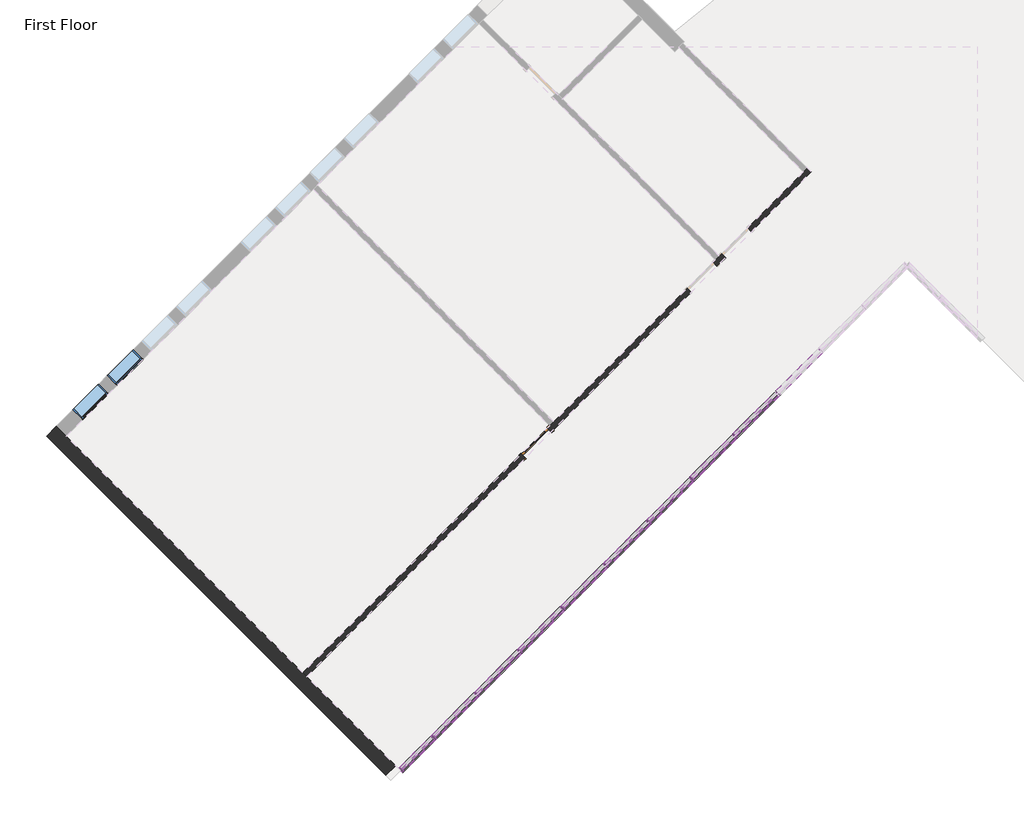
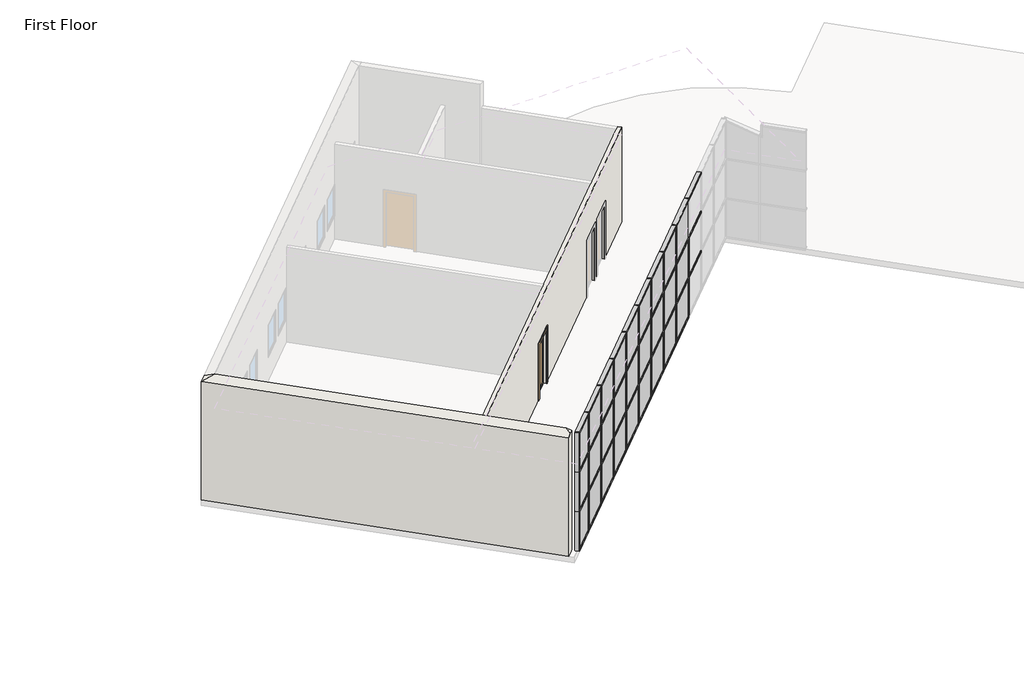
# One storey, part 1 of 4: 68 members, 27 plates, 2 walls, 2 windows, 1 door.
"""IFC4 building model written with IfcOpenShell, lengths in millimetres."""

from ifc_helpers import new_model, si_unit, origin, place, context, project, spatial, faceted_brep, transform, mapped, element, save
from components import m_single_glass_1_0915_x_2134mm_fb3287b7, rectangular_mullion_50_x_150mm_a88ac5a8, rectangular_mullion_50_x_150mm_40297ad3, rectangular_mullion_50_x_150mm_f494fff1, rectangular_mullion_50_x_150mm_2bb03180, rectangular_mullion_50_x_150mm_5da8f88f, rectangular_mullion_50_x_150mm_4d330a12, system_panel_glazed_a417ca2b, system_panel_glazed_7c4ff273, system_panel_glazed_1065fb32, system_panel_glazed_85fb0d8e, system_panel_solid_a570f427, system_panel_solid_3d16d364, m_fixed_0915_x_1220mm_bde29121

model = new_model("IFC4")

# Units and contexts
model_context = context("Model", 3, world=origin())
ifc_project = project(units=[si_unit("LENGTHUNIT", "METRE", prefix="MILLI")], contexts=[model_context])

# Site, building, storey
site = spatial("IfcSite", under=ifc_project)
building = spatial("IfcBuilding", under=site)
storey = spatial("IfcBuildingStorey", under=building, Name="First Floor", Elevation=0.0)

# Door
placement = place(None, origin())
m_single_glass_1_0915_x_2134mm_shape = m_single_glass_1_0915_x_2134mm_fb3287b7(model_context)
element("IfcDoor", 1, ObjectType="M_Single-Glass 1 : 0915 x 2134mm", at=placement, inside=storey, context=model_context, shape_type="MappedRepresentation", body=[
    mapped(m_single_glass_1_0915_x_2134mm_shape, transform((-10885.2041795, -2483.8084826, 0.0), x_axis=(0.7071067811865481, 0.7071067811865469, 0.0), y_axis=(-0.7071067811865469, 0.7071067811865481, 0.0), z_axis=(0.0, 0.0, 1.0))),
])

# Members
rectangular_mullion_50_x_150mm_shape = rectangular_mullion_50_x_150mm_a88ac5a8(model_context)
element("IfcMember", 2, ObjectType="Rectangular Mullion : 50 x 150mm", at=placement, inside=storey, context=model_context, shape_type="MappedRepresentation", body=[
    mapped(rectangular_mullion_50_x_150mm_shape, transform((-14249.9717978, -10654.0737858, 4572.0), x_axis=(0.0, 0.0, 1.0), y_axis=(-0.7071067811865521, 0.7071067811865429, 0.0), z_axis=(-0.7071067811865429, -0.7071067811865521, 0.0))),
])
rectangular_mullion_50_x_150mm_2_shape = rectangular_mullion_50_x_150mm_40297ad3(model_context)
element("IfcMember", 3, ObjectType="Rectangular Mullion : 50 x 150mm", at=placement, inside=storey, context=model_context, shape_type="MappedRepresentation", body=[
    mapped(rectangular_mullion_50_x_150mm_2_shape, transform((-4834.1378997, -1238.2398877, 0.0), x_axis=(-0.7071067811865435, -0.7071067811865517, 0.0), y_axis=(-0.7071067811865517, 0.7071067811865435, 0.0), z_axis=(0.0, 0.0, -1.0))),
])
element("IfcMember", 4, ObjectType="Rectangular Mullion : 50 x 150mm", at=placement, inside=storey, context=model_context, shape_type="MappedRepresentation", body=[
    mapped(rectangular_mullion_50_x_150mm_2_shape, transform((-5911.7686342, -2315.8706223, 0.0), x_axis=(-0.7071067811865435, -0.7071067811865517, 0.0), y_axis=(-0.7071067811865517, 0.7071067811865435, 0.0), z_axis=(0.0, 0.0, -1.0))),
])
element("IfcMember", 5, ObjectType="Rectangular Mullion : 50 x 150mm", at=placement, inside=storey, context=model_context, shape_type="MappedRepresentation", body=[
    mapped(rectangular_mullion_50_x_150mm_2_shape, transform((-6989.3993688, -3393.5013568, 0.0), x_axis=(-0.7071067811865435, -0.7071067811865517, 0.0), y_axis=(-0.7071067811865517, 0.7071067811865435, 0.0), z_axis=(0.0, 0.0, -1.0))),
])
element("IfcMember", 6, ObjectType="Rectangular Mullion : 50 x 150mm", at=placement, inside=storey, context=model_context, shape_type="MappedRepresentation", body=[
    mapped(rectangular_mullion_50_x_150mm_2_shape, transform((-8067.0301033, -4471.1320913, 0.0), x_axis=(-0.7071067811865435, -0.7071067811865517, 0.0), y_axis=(-0.7071067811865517, 0.7071067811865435, 0.0), z_axis=(0.0, 0.0, -1.0))),
])
element("IfcMember", 7, ObjectType="Rectangular Mullion : 50 x 150mm", at=placement, inside=storey, context=model_context, shape_type="MappedRepresentation", body=[
    mapped(rectangular_mullion_50_x_150mm_2_shape, transform((-9144.6608378, -5548.7628258, 0.0), x_axis=(-0.7071067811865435, -0.7071067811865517, 0.0), y_axis=(-0.7071067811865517, 0.7071067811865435, 0.0), z_axis=(0.0, 0.0, -1.0))),
])
element("IfcMember", 8, ObjectType="Rectangular Mullion : 50 x 150mm", at=placement, inside=storey, context=model_context, shape_type="MappedRepresentation", body=[
    mapped(rectangular_mullion_50_x_150mm_2_shape, transform((-10222.2915724, -6626.3935604, 0.0), x_axis=(-0.7071067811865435, -0.7071067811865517, 0.0), y_axis=(-0.7071067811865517, 0.7071067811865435, 0.0), z_axis=(0.0, 0.0, -1.0))),
])
element("IfcMember", 9, ObjectType="Rectangular Mullion : 50 x 150mm", at=placement, inside=storey, context=model_context, shape_type="MappedRepresentation", body=[
    mapped(rectangular_mullion_50_x_150mm_2_shape, transform((-11299.9223069, -7704.0242949, 0.0), x_axis=(-0.7071067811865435, -0.7071067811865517, 0.0), y_axis=(-0.7071067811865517, 0.7071067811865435, 0.0), z_axis=(0.0, 0.0, -1.0))),
])
element("IfcMember", 10, ObjectType="Rectangular Mullion : 50 x 150mm", at=placement, inside=storey, context=model_context, shape_type="MappedRepresentation", body=[
    mapped(rectangular_mullion_50_x_150mm_2_shape, transform((-12377.5530414, -8781.6550294, 0.0), x_axis=(-0.7071067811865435, -0.7071067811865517, 0.0), y_axis=(-0.7071067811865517, 0.7071067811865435, 0.0), z_axis=(0.0, 0.0, -1.0))),
])
element("IfcMember", 11, ObjectType="Rectangular Mullion : 50 x 150mm", at=placement, inside=storey, context=model_context, shape_type="MappedRepresentation", body=[
    mapped(rectangular_mullion_50_x_150mm_2_shape, transform((-13455.1837759, -9859.285764, 0.0), x_axis=(-0.7071067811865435, -0.7071067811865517, 0.0), y_axis=(-0.7071067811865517, 0.7071067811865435, 0.0), z_axis=(0.0, 0.0, -1.0))),
])
rectangular_mullion_50_x_150mm_3_shape = rectangular_mullion_50_x_150mm_f494fff1(model_context)
element("IfcMember", 12, ObjectType="Rectangular Mullion : 50 x 150mm", at=placement, inside=storey, context=model_context, shape_type="MappedRepresentation", body=[
    mapped(rectangular_mullion_50_x_150mm_3_shape, transform((-4816.4602302, -1220.5622182, 1524.0), x_axis=(0.0, 0.0, 1.0), y_axis=(-0.7071067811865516, 0.7071067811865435, 0.0), z_axis=(-0.7071067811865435, -0.7071067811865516, 0.0))),
])
element("IfcMember", 13, ObjectType="Rectangular Mullion : 50 x 150mm", at=placement, inside=storey, context=model_context, shape_type="MappedRepresentation", body=[
    mapped(rectangular_mullion_50_x_150mm_3_shape, transform((-5894.0909647, -2298.1929527, 1524.0), x_axis=(0.0, 0.0, 1.0), y_axis=(-0.7071067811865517, 0.7071067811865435, 0.0), z_axis=(-0.7071067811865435, -0.7071067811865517, 0.0))),
])
element("IfcMember", 14, ObjectType="Rectangular Mullion : 50 x 150mm", at=placement, inside=storey, context=model_context, shape_type="MappedRepresentation", body=[
    mapped(rectangular_mullion_50_x_150mm_3_shape, transform((-6971.7216992, -3375.8236873, 1524.0), x_axis=(0.0, 0.0, 1.0), y_axis=(-0.7071067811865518, 0.7071067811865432, 0.0), z_axis=(-0.7071067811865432, -0.7071067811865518, 0.0))),
])
element("IfcMember", 15, ObjectType="Rectangular Mullion : 50 x 150mm", at=placement, inside=storey, context=model_context, shape_type="MappedRepresentation", body=[
    mapped(rectangular_mullion_50_x_150mm_3_shape, transform((-8049.3524338, -4453.4544218, 1524.0), x_axis=(0.0, 0.0, 1.0), y_axis=(-0.7071067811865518, 0.7071067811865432, 0.0), z_axis=(-0.7071067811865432, -0.7071067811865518, 0.0))),
])
element("IfcMember", 16, ObjectType="Rectangular Mullion : 50 x 150mm", at=placement, inside=storey, context=model_context, shape_type="MappedRepresentation", body=[
    mapped(rectangular_mullion_50_x_150mm_3_shape, transform((-9126.9831683, -5531.0851563, 1524.0), x_axis=(0.0, 0.0, 1.0), y_axis=(-0.7071067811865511, 0.707106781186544, 0.0), z_axis=(-0.707106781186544, -0.7071067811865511, 0.0))),
])
element("IfcMember", 17, ObjectType="Rectangular Mullion : 50 x 150mm", at=placement, inside=storey, context=model_context, shape_type="MappedRepresentation", body=[
    mapped(rectangular_mullion_50_x_150mm_3_shape, transform((-10204.6139028, -6608.7158908, 1524.0), x_axis=(0.0, 0.0, 1.0), y_axis=(-0.7071067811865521, 0.7071067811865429, 0.0), z_axis=(-0.7071067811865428, -0.707106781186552, 0.0))),
])
element("IfcMember", 18, ObjectType="Rectangular Mullion : 50 x 150mm", at=placement, inside=storey, context=model_context, shape_type="MappedRepresentation", body=[
    mapped(rectangular_mullion_50_x_150mm_3_shape, transform((-11282.2446374, -7686.3466254, 1524.0), x_axis=(0.0, 0.0, 1.0), y_axis=(-0.7071067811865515, 0.7071067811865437, 0.0), z_axis=(-0.7071067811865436, -0.7071067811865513, 0.0))),
])
element("IfcMember", 19, ObjectType="Rectangular Mullion : 50 x 150mm", at=placement, inside=storey, context=model_context, shape_type="MappedRepresentation", body=[
    mapped(rectangular_mullion_50_x_150mm_3_shape, transform((-12359.8753719, -8763.9773599, 1524.0), x_axis=(0.0, 0.0, 1.0), y_axis=(-0.7071067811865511, 0.707106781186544, 0.0), z_axis=(-0.707106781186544, -0.7071067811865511, 0.0))),
])
element("IfcMember", 20, ObjectType="Rectangular Mullion : 50 x 150mm", at=placement, inside=storey, context=model_context, shape_type="MappedRepresentation", body=[
    mapped(rectangular_mullion_50_x_150mm_3_shape, transform((-13437.5061064, -9841.6080944, 1524.0), x_axis=(0.0, 0.0, 1.0), y_axis=(-0.7071067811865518, 0.7071067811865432, 0.0), z_axis=(-0.7071067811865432, -0.7071067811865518, 0.0))),
])
element("IfcMember", 21, ObjectType="Rectangular Mullion : 50 x 150mm", at=placement, inside=storey, context=model_context, shape_type="MappedRepresentation", body=[
    mapped(rectangular_mullion_50_x_150mm_3_shape, transform((-4816.4602302, -1220.5622182, 3048.0), x_axis=(0.0, 0.0, 1.0), y_axis=(-0.7071067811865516, 0.7071067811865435, 0.0), z_axis=(-0.7071067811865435, -0.7071067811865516, 0.0))),
])
element("IfcMember", 22, ObjectType="Rectangular Mullion : 50 x 150mm", at=placement, inside=storey, context=model_context, shape_type="MappedRepresentation", body=[
    mapped(rectangular_mullion_50_x_150mm_3_shape, transform((-5894.0909647, -2298.1929527, 3048.0), x_axis=(0.0, 0.0, 1.0), y_axis=(-0.7071067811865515, 0.7071067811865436, 0.0), z_axis=(-0.7071067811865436, -0.7071067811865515, 0.0))),
])
element("IfcMember", 23, ObjectType="Rectangular Mullion : 50 x 150mm", at=placement, inside=storey, context=model_context, shape_type="MappedRepresentation", body=[
    mapped(rectangular_mullion_50_x_150mm_3_shape, transform((-6971.7216992, -3375.8236873, 3048.0), x_axis=(0.0, 0.0, 1.0), y_axis=(-0.7071067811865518, 0.7071067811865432, 0.0), z_axis=(-0.7071067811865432, -0.7071067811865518, 0.0))),
])
element("IfcMember", 24, ObjectType="Rectangular Mullion : 50 x 150mm", at=placement, inside=storey, context=model_context, shape_type="MappedRepresentation", body=[
    mapped(rectangular_mullion_50_x_150mm_3_shape, transform((-8049.3524338, -4453.4544218, 3048.0), x_axis=(0.0, 0.0, 1.0), y_axis=(-0.7071067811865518, 0.7071067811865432, 0.0), z_axis=(-0.7071067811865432, -0.7071067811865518, 0.0))),
])
element("IfcMember", 25, ObjectType="Rectangular Mullion : 50 x 150mm", at=placement, inside=storey, context=model_context, shape_type="MappedRepresentation", body=[
    mapped(rectangular_mullion_50_x_150mm_3_shape, transform((-9126.9831683, -5531.0851563, 3048.0), x_axis=(0.0, 0.0, 1.0), y_axis=(-0.7071067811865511, 0.707106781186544, 0.0), z_axis=(-0.707106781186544, -0.7071067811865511, 0.0))),
])
element("IfcMember", 26, ObjectType="Rectangular Mullion : 50 x 150mm", at=placement, inside=storey, context=model_context, shape_type="MappedRepresentation", body=[
    mapped(rectangular_mullion_50_x_150mm_3_shape, transform((-10204.6139028, -6608.7158908, 3048.0), x_axis=(0.0, 0.0, 1.0), y_axis=(-0.7071067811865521, 0.7071067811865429, 0.0), z_axis=(-0.7071067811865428, -0.707106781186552, 0.0))),
])
element("IfcMember", 27, ObjectType="Rectangular Mullion : 50 x 150mm", at=placement, inside=storey, context=model_context, shape_type="MappedRepresentation", body=[
    mapped(rectangular_mullion_50_x_150mm_3_shape, transform((-11282.2446374, -7686.3466254, 3048.0), x_axis=(0.0, 0.0, 1.0), y_axis=(-0.7071067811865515, 0.7071067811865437, 0.0), z_axis=(-0.7071067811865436, -0.7071067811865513, 0.0))),
])
element("IfcMember", 28, ObjectType="Rectangular Mullion : 50 x 150mm", at=placement, inside=storey, context=model_context, shape_type="MappedRepresentation", body=[
    mapped(rectangular_mullion_50_x_150mm_3_shape, transform((-12359.8753719, -8763.9773599, 3048.0), x_axis=(0.0, 0.0, 1.0), y_axis=(-0.7071067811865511, 0.707106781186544, 0.0), z_axis=(-0.707106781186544, -0.7071067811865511, 0.0))),
])
element("IfcMember", 29, ObjectType="Rectangular Mullion : 50 x 150mm", at=placement, inside=storey, context=model_context, shape_type="MappedRepresentation", body=[
    mapped(rectangular_mullion_50_x_150mm_3_shape, transform((-13437.5061064, -9841.6080944, 3048.0), x_axis=(0.0, 0.0, 1.0), y_axis=(-0.7071067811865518, 0.7071067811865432, 0.0), z_axis=(-0.7071067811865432, -0.7071067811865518, 0.0))),
])
rectangular_mullion_50_x_150mm_4_shape = rectangular_mullion_50_x_150mm_2bb03180(model_context)
element("IfcMember", 30, ObjectType="Rectangular Mullion : 50 x 150mm", at=placement, inside=storey, context=model_context, shape_type="MappedRepresentation", body=[
    mapped(rectangular_mullion_50_x_150mm_4_shape, transform((-14249.9717978, -10654.0737858, 1524.0), x_axis=(0.0, 0.0, 1.0), y_axis=(-0.7071067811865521, 0.7071067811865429, 0.0), z_axis=(-0.7071067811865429, -0.7071067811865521, 0.0))),
])
element("IfcMember", 31, ObjectType="Rectangular Mullion : 50 x 150mm", at=placement, inside=storey, context=model_context, shape_type="MappedRepresentation", body=[
    mapped(rectangular_mullion_50_x_150mm_4_shape, transform((-14249.9717978, -10654.0737858, 3048.0), x_axis=(0.0, 0.0, 1.0), y_axis=(-0.7071067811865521, 0.7071067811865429, 0.0), z_axis=(-0.7071067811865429, -0.7071067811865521, 0.0))),
])
rectangular_mullion_50_x_150mm_5_shape = rectangular_mullion_50_x_150mm_5da8f88f(model_context)
element("IfcMember", 32, ObjectType="Rectangular Mullion : 50 x 150mm", at=placement, inside=storey, context=model_context, shape_type="MappedRepresentation", body=[
    mapped(rectangular_mullion_50_x_150mm_5_shape, transform((-4851.8155692, -1255.9175573, 0.0), x_axis=(0.0, 0.0, -1.0), y_axis=(-0.7071067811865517, 0.7071067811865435, 0.0), z_axis=(0.7071067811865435, 0.7071067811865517, 0.0))),
])
element("IfcMember", 33, ObjectType="Rectangular Mullion : 50 x 150mm", at=placement, inside=storey, context=model_context, shape_type="MappedRepresentation", body=[
    mapped(rectangular_mullion_50_x_150mm_5_shape, transform((-5929.4463038, -2333.5482918, 0.0), x_axis=(0.0, 0.0, -1.0), y_axis=(-0.7071067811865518, 0.7071067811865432, 0.0), z_axis=(0.7071067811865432, 0.7071067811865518, 0.0))),
])
element("IfcMember", 34, ObjectType="Rectangular Mullion : 50 x 150mm", at=placement, inside=storey, context=model_context, shape_type="MappedRepresentation", body=[
    mapped(rectangular_mullion_50_x_150mm_5_shape, transform((-7007.0770383, -3411.1790263, 0.0), x_axis=(0.0, 0.0, -1.0), y_axis=(-0.7071067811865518, 0.7071067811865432, 0.0), z_axis=(0.7071067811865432, 0.7071067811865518, 0.0))),
])
element("IfcMember", 35, ObjectType="Rectangular Mullion : 50 x 150mm", at=placement, inside=storey, context=model_context, shape_type="MappedRepresentation", body=[
    mapped(rectangular_mullion_50_x_150mm_5_shape, transform((-8084.7077728, -4488.8097608, 0.0), x_axis=(0.0, 0.0, -1.0), y_axis=(-0.7071067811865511, 0.707106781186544, 0.0), z_axis=(0.707106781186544, 0.7071067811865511, 0.0))),
])
element("IfcMember", 36, ObjectType="Rectangular Mullion : 50 x 150mm", at=placement, inside=storey, context=model_context, shape_type="MappedRepresentation", body=[
    mapped(rectangular_mullion_50_x_150mm_5_shape, transform((-9162.3385074, -5566.4404954, 0.0), x_axis=(0.0, 0.0, -1.0), y_axis=(-0.7071067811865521, 0.7071067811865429, 0.0), z_axis=(0.7071067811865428, 0.707106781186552, 0.0))),
])
element("IfcMember", 37, ObjectType="Rectangular Mullion : 50 x 150mm", at=placement, inside=storey, context=model_context, shape_type="MappedRepresentation", body=[
    mapped(rectangular_mullion_50_x_150mm_5_shape, transform((-10239.9692419, -6644.0712299, 0.0), x_axis=(0.0, 0.0, -1.0), y_axis=(-0.7071067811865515, 0.7071067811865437, 0.0), z_axis=(0.7071067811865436, 0.7071067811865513, 0.0))),
])
element("IfcMember", 38, ObjectType="Rectangular Mullion : 50 x 150mm", at=placement, inside=storey, context=model_context, shape_type="MappedRepresentation", body=[
    mapped(rectangular_mullion_50_x_150mm_5_shape, transform((-11317.5999764, -7721.7019644, 0.0), x_axis=(0.0, 0.0, -1.0), y_axis=(-0.7071067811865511, 0.707106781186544, 0.0), z_axis=(0.707106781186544, 0.7071067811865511, 0.0))),
])
element("IfcMember", 39, ObjectType="Rectangular Mullion : 50 x 150mm", at=placement, inside=storey, context=model_context, shape_type="MappedRepresentation", body=[
    mapped(rectangular_mullion_50_x_150mm_5_shape, transform((-12395.2307109, -8799.332699, 0.0), x_axis=(0.0, 0.0, -1.0), y_axis=(-0.7071067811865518, 0.7071067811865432, 0.0), z_axis=(0.7071067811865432, 0.7071067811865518, 0.0))),
])
element("IfcMember", 40, ObjectType="Rectangular Mullion : 50 x 150mm", at=placement, inside=storey, context=model_context, shape_type="MappedRepresentation", body=[
    mapped(rectangular_mullion_50_x_150mm_shape, transform((-13472.8614455, -9876.9634335, 0.0), x_axis=(0.0, 0.0, -1.0), y_axis=(-0.7071067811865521, 0.7071067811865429, 0.0), z_axis=(0.7071067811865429, 0.7071067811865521, 0.0))),
])
element("IfcMember", 41, ObjectType="Rectangular Mullion : 50 x 150mm", at=placement, inside=storey, context=model_context, shape_type="MappedRepresentation", body=[
    mapped(rectangular_mullion_50_x_150mm_5_shape, transform((-4816.4602302, -1220.5622182, 4572.0), x_axis=(0.0, 0.0, 1.0), y_axis=(-0.7071067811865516, 0.7071067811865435, 0.0), z_axis=(-0.7071067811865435, -0.7071067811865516, 0.0))),
])
element("IfcMember", 42, ObjectType="Rectangular Mullion : 50 x 150mm", at=placement, inside=storey, context=model_context, shape_type="MappedRepresentation", body=[
    mapped(rectangular_mullion_50_x_150mm_5_shape, transform((-5894.0909647, -2298.1929527, 4572.0), x_axis=(0.0, 0.0, 1.0), y_axis=(-0.7071067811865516, 0.7071067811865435, 0.0), z_axis=(-0.7071067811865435, -0.7071067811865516, 0.0))),
])
element("IfcMember", 43, ObjectType="Rectangular Mullion : 50 x 150mm", at=placement, inside=storey, context=model_context, shape_type="MappedRepresentation", body=[
    mapped(rectangular_mullion_50_x_150mm_5_shape, transform((-6971.7216992, -3375.8236873, 4572.0), x_axis=(0.0, 0.0, 1.0), y_axis=(-0.7071067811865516, 0.7071067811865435, 0.0), z_axis=(-0.7071067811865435, -0.7071067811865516, 0.0))),
])
element("IfcMember", 44, ObjectType="Rectangular Mullion : 50 x 150mm", at=placement, inside=storey, context=model_context, shape_type="MappedRepresentation", body=[
    mapped(rectangular_mullion_50_x_150mm_5_shape, transform((-8049.3524338, -4453.4544218, 4572.0), x_axis=(0.0, 0.0, 1.0), y_axis=(-0.7071067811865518, 0.7071067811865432, 0.0), z_axis=(-0.7071067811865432, -0.7071067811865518, 0.0))),
])
element("IfcMember", 45, ObjectType="Rectangular Mullion : 50 x 150mm", at=placement, inside=storey, context=model_context, shape_type="MappedRepresentation", body=[
    mapped(rectangular_mullion_50_x_150mm_5_shape, transform((-9126.9831683, -5531.0851563, 4572.0), x_axis=(0.0, 0.0, 1.0), y_axis=(-0.7071067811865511, 0.707106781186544, 0.0), z_axis=(-0.707106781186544, -0.7071067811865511, 0.0))),
])
element("IfcMember", 46, ObjectType="Rectangular Mullion : 50 x 150mm", at=placement, inside=storey, context=model_context, shape_type="MappedRepresentation", body=[
    mapped(rectangular_mullion_50_x_150mm_5_shape, transform((-10204.6139028, -6608.7158908, 4572.0), x_axis=(0.0, 0.0, 1.0), y_axis=(-0.7071067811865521, 0.7071067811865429, 0.0), z_axis=(-0.7071067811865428, -0.707106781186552, 0.0))),
])
element("IfcMember", 47, ObjectType="Rectangular Mullion : 50 x 150mm", at=placement, inside=storey, context=model_context, shape_type="MappedRepresentation", body=[
    mapped(rectangular_mullion_50_x_150mm_5_shape, transform((-11282.2446374, -7686.3466254, 4572.0), x_axis=(0.0, 0.0, 1.0), y_axis=(-0.7071067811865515, 0.7071067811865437, 0.0), z_axis=(-0.7071067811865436, -0.7071067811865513, 0.0))),
])
element("IfcMember", 48, ObjectType="Rectangular Mullion : 50 x 150mm", at=placement, inside=storey, context=model_context, shape_type="MappedRepresentation", body=[
    mapped(rectangular_mullion_50_x_150mm_5_shape, transform((-12359.8753719, -8763.9773599, 4572.0), x_axis=(0.0, 0.0, 1.0), y_axis=(-0.7071067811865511, 0.707106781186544, 0.0), z_axis=(-0.707106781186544, -0.7071067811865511, 0.0))),
])
element("IfcMember", 49, ObjectType="Rectangular Mullion : 50 x 150mm", at=placement, inside=storey, context=model_context, shape_type="MappedRepresentation", body=[
    mapped(rectangular_mullion_50_x_150mm_5_shape, transform((-13437.5061064, -9841.6080944, 4572.0), x_axis=(0.0, 0.0, 1.0), y_axis=(-0.7071067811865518, 0.7071067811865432, 0.0), z_axis=(-0.7071067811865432, -0.7071067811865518, 0.0))),
])
element("IfcMember", 50, ObjectType="Rectangular Mullion : 50 x 150mm", at=placement, inside=storey, context=model_context, shape_type="MappedRepresentation", body=[
    mapped(rectangular_mullion_50_x_150mm_2_shape, transform((-4834.1378997, -1238.2398877, 1524.0), x_axis=(-0.7071067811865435, -0.7071067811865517, 0.0), y_axis=(-0.7071067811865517, 0.7071067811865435, 0.0), z_axis=(0.0, 0.0, -1.0))),
])
element("IfcMember", 51, ObjectType="Rectangular Mullion : 50 x 150mm", at=placement, inside=storey, context=model_context, shape_type="MappedRepresentation", body=[
    mapped(rectangular_mullion_50_x_150mm_2_shape, transform((-5911.7686342, -2315.8706223, 1524.0), x_axis=(-0.7071067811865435, -0.7071067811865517, 0.0), y_axis=(-0.7071067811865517, 0.7071067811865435, 0.0), z_axis=(0.0, 0.0, -1.0))),
])
element("IfcMember", 52, ObjectType="Rectangular Mullion : 50 x 150mm", at=placement, inside=storey, context=model_context, shape_type="MappedRepresentation", body=[
    mapped(rectangular_mullion_50_x_150mm_2_shape, transform((-6989.3993688, -3393.5013568, 1524.0), x_axis=(-0.7071067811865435, -0.7071067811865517, 0.0), y_axis=(-0.7071067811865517, 0.7071067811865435, 0.0), z_axis=(0.0, 0.0, -1.0))),
])
element("IfcMember", 53, ObjectType="Rectangular Mullion : 50 x 150mm", at=placement, inside=storey, context=model_context, shape_type="MappedRepresentation", body=[
    mapped(rectangular_mullion_50_x_150mm_2_shape, transform((-8067.0301033, -4471.1320913, 1524.0), x_axis=(-0.7071067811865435, -0.7071067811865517, 0.0), y_axis=(-0.7071067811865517, 0.7071067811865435, 0.0), z_axis=(0.0, 0.0, -1.0))),
])
element("IfcMember", 54, ObjectType="Rectangular Mullion : 50 x 150mm", at=placement, inside=storey, context=model_context, shape_type="MappedRepresentation", body=[
    mapped(rectangular_mullion_50_x_150mm_2_shape, transform((-9144.6608378, -5548.7628258, 1524.0), x_axis=(-0.7071067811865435, -0.7071067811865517, 0.0), y_axis=(-0.7071067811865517, 0.7071067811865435, 0.0), z_axis=(0.0, 0.0, -1.0))),
])
element("IfcMember", 55, ObjectType="Rectangular Mullion : 50 x 150mm", at=placement, inside=storey, context=model_context, shape_type="MappedRepresentation", body=[
    mapped(rectangular_mullion_50_x_150mm_2_shape, transform((-10222.2915724, -6626.3935604, 1524.0), x_axis=(-0.7071067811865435, -0.7071067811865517, 0.0), y_axis=(-0.7071067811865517, 0.7071067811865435, 0.0), z_axis=(0.0, 0.0, -1.0))),
])
element("IfcMember", 56, ObjectType="Rectangular Mullion : 50 x 150mm", at=placement, inside=storey, context=model_context, shape_type="MappedRepresentation", body=[
    mapped(rectangular_mullion_50_x_150mm_2_shape, transform((-11299.9223069, -7704.0242949, 1524.0), x_axis=(-0.7071067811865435, -0.7071067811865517, 0.0), y_axis=(-0.7071067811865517, 0.7071067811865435, 0.0), z_axis=(0.0, 0.0, -1.0))),
])
element("IfcMember", 57, ObjectType="Rectangular Mullion : 50 x 150mm", at=placement, inside=storey, context=model_context, shape_type="MappedRepresentation", body=[
    mapped(rectangular_mullion_50_x_150mm_2_shape, transform((-12377.5530414, -8781.6550294, 1524.0), x_axis=(-0.7071067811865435, -0.7071067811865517, 0.0), y_axis=(-0.7071067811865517, 0.7071067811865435, 0.0), z_axis=(0.0, 0.0, -1.0))),
])
element("IfcMember", 58, ObjectType="Rectangular Mullion : 50 x 150mm", at=placement, inside=storey, context=model_context, shape_type="MappedRepresentation", body=[
    mapped(rectangular_mullion_50_x_150mm_2_shape, transform((-13455.1837759, -9859.285764, 1524.0), x_axis=(-0.7071067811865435, -0.7071067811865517, 0.0), y_axis=(-0.7071067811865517, 0.7071067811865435, 0.0), z_axis=(0.0, 0.0, -1.0))),
])
element("IfcMember", 59, ObjectType="Rectangular Mullion : 50 x 150mm", at=placement, inside=storey, context=model_context, shape_type="MappedRepresentation", body=[
    mapped(rectangular_mullion_50_x_150mm_2_shape, transform((-5911.7686342, -2315.8706223, 3048.0), x_axis=(-0.7071067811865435, -0.7071067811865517, 0.0), y_axis=(-0.7071067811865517, 0.7071067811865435, 0.0), z_axis=(0.0, 0.0, -1.0))),
])
element("IfcMember", 60, ObjectType="Rectangular Mullion : 50 x 150mm", at=placement, inside=storey, context=model_context, shape_type="MappedRepresentation", body=[
    mapped(rectangular_mullion_50_x_150mm_2_shape, transform((-6989.3993688, -3393.5013568, 3048.0), x_axis=(-0.7071067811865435, -0.7071067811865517, 0.0), y_axis=(-0.7071067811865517, 0.7071067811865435, 0.0), z_axis=(0.0, 0.0, -1.0))),
])
element("IfcMember", 61, ObjectType="Rectangular Mullion : 50 x 150mm", at=placement, inside=storey, context=model_context, shape_type="MappedRepresentation", body=[
    mapped(rectangular_mullion_50_x_150mm_2_shape, transform((-8067.0301033, -4471.1320913, 3048.0), x_axis=(-0.7071067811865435, -0.7071067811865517, 0.0), y_axis=(-0.7071067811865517, 0.7071067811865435, 0.0), z_axis=(0.0, 0.0, -1.0))),
])
element("IfcMember", 62, ObjectType="Rectangular Mullion : 50 x 150mm", at=placement, inside=storey, context=model_context, shape_type="MappedRepresentation", body=[
    mapped(rectangular_mullion_50_x_150mm_2_shape, transform((-9144.6608378, -5548.7628258, 3048.0), x_axis=(-0.7071067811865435, -0.7071067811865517, 0.0), y_axis=(-0.7071067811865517, 0.7071067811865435, 0.0), z_axis=(0.0, 0.0, -1.0))),
])
element("IfcMember", 63, ObjectType="Rectangular Mullion : 50 x 150mm", at=placement, inside=storey, context=model_context, shape_type="MappedRepresentation", body=[
    mapped(rectangular_mullion_50_x_150mm_2_shape, transform((-10222.2915724, -6626.3935604, 3048.0), x_axis=(-0.7071067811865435, -0.7071067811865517, 0.0), y_axis=(-0.7071067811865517, 0.7071067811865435, 0.0), z_axis=(0.0, 0.0, -1.0))),
])
element("IfcMember", 64, ObjectType="Rectangular Mullion : 50 x 150mm", at=placement, inside=storey, context=model_context, shape_type="MappedRepresentation", body=[
    mapped(rectangular_mullion_50_x_150mm_2_shape, transform((-11299.9223069, -7704.0242949, 3048.0), x_axis=(-0.7071067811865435, -0.7071067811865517, 0.0), y_axis=(-0.7071067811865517, 0.7071067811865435, 0.0), z_axis=(0.0, 0.0, -1.0))),
])
element("IfcMember", 65, ObjectType="Rectangular Mullion : 50 x 150mm", at=placement, inside=storey, context=model_context, shape_type="MappedRepresentation", body=[
    mapped(rectangular_mullion_50_x_150mm_2_shape, transform((-12377.5530414, -8781.6550294, 3048.0), x_axis=(-0.7071067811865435, -0.7071067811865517, 0.0), y_axis=(-0.7071067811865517, 0.7071067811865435, 0.0), z_axis=(0.0, 0.0, -1.0))),
])
element("IfcMember", 66, ObjectType="Rectangular Mullion : 50 x 150mm", at=placement, inside=storey, context=model_context, shape_type="MappedRepresentation", body=[
    mapped(rectangular_mullion_50_x_150mm_2_shape, transform((-13455.1837759, -9859.285764, 3048.0), x_axis=(-0.7071067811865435, -0.7071067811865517, 0.0), y_axis=(-0.7071067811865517, 0.7071067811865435, 0.0), z_axis=(0.0, 0.0, -1.0))),
])
rectangular_mullion_50_x_150mm_6_shape = rectangular_mullion_50_x_150mm_4d330a12(model_context)
element("IfcMember", 67, ObjectType="Rectangular Mullion : 50 x 150mm", at=placement, inside=storey, context=model_context, shape_type="MappedRepresentation", body=[
    mapped(rectangular_mullion_50_x_150mm_6_shape, transform((-14285.3271368, -10689.4291248, 0.0), x_axis=(-0.7071067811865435, -0.7071067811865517, 0.0), y_axis=(-0.7071067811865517, 0.7071067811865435, 0.0), z_axis=(0.0, 0.0, -1.0))),
])
element("IfcMember", 68, ObjectType="Rectangular Mullion : 50 x 150mm", at=placement, inside=storey, context=model_context, shape_type="MappedRepresentation", body=[
    mapped(rectangular_mullion_50_x_150mm_6_shape, transform((-14285.3271368, -10689.4291248, 1524.0), x_axis=(-0.7071067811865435, -0.7071067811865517, 0.0), y_axis=(-0.7071067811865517, 0.7071067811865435, 0.0), z_axis=(0.0, 0.0, -1.0))),
])
element("IfcMember", 69, ObjectType="Rectangular Mullion : 50 x 150mm", at=placement, inside=storey, context=model_context, shape_type="MappedRepresentation", body=[
    mapped(rectangular_mullion_50_x_150mm_6_shape, transform((-14285.3271368, -10689.4291248, 3048.0), x_axis=(-0.7071067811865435, -0.7071067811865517, 0.0), y_axis=(-0.7071067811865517, 0.7071067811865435, 0.0), z_axis=(0.0, 0.0, -1.0))),
])

# Plates
system_panel_glazed_shape = system_panel_glazed_a417ca2b(model_context)
element("IfcPlate", 70, ObjectType="System Panel : Glazed", at=placement, inside=storey, context=model_context, shape_type="MappedRepresentation", body=[
    mapped(system_panel_glazed_shape, transform((-5372.953267, -1777.055255, 50.0), x_axis=(-0.7071067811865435, -0.7071067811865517, 0.0), y_axis=(0.7071067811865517, -0.7071067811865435, 0.0), z_axis=(0.0, 0.0, 1.0))),
])
element("IfcPlate", 71, ObjectType="System Panel : Glazed", at=placement, inside=storey, context=model_context, shape_type="MappedRepresentation", body=[
    mapped(system_panel_glazed_shape, transform((-6450.5840015, -2854.6859895, 50.0), x_axis=(-0.7071067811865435, -0.7071067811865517, 0.0), y_axis=(0.7071067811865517, -0.7071067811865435, 0.0), z_axis=(0.0, 0.0, 1.0))),
])
element("IfcPlate", 72, ObjectType="System Panel : Glazed", at=placement, inside=storey, context=model_context, shape_type="MappedRepresentation", body=[
    mapped(system_panel_glazed_shape, transform((-7528.214736, -3932.316724, 50.0), x_axis=(-0.7071067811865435, -0.7071067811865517, 0.0), y_axis=(0.7071067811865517, -0.7071067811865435, 0.0), z_axis=(0.0, 0.0, 1.0))),
])
element("IfcPlate", 73, ObjectType="System Panel : Glazed", at=placement, inside=storey, context=model_context, shape_type="MappedRepresentation", body=[
    mapped(system_panel_glazed_shape, transform((-8605.8454706, -5009.9474586, 50.0), x_axis=(-0.7071067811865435, -0.7071067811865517, 0.0), y_axis=(0.7071067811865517, -0.7071067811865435, 0.0), z_axis=(0.0, 0.0, 1.0))),
])
element("IfcPlate", 74, ObjectType="System Panel : Glazed", at=placement, inside=storey, context=model_context, shape_type="MappedRepresentation", body=[
    mapped(system_panel_glazed_shape, transform((-9683.4762051, -6087.5781931, 50.0), x_axis=(-0.7071067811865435, -0.7071067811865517, 0.0), y_axis=(0.7071067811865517, -0.7071067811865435, 0.0), z_axis=(0.0, 0.0, 1.0))),
])
element("IfcPlate", 75, ObjectType="System Panel : Glazed", at=placement, inside=storey, context=model_context, shape_type="MappedRepresentation", body=[
    mapped(system_panel_glazed_shape, transform((-10761.1069396, -7165.2089276, 50.0), x_axis=(-0.7071067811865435, -0.7071067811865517, 0.0), y_axis=(0.7071067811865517, -0.7071067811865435, 0.0), z_axis=(0.0, 0.0, 1.0))),
])
element("IfcPlate", 76, ObjectType="System Panel : Glazed", at=placement, inside=storey, context=model_context, shape_type="MappedRepresentation", body=[
    mapped(system_panel_glazed_shape, transform((-11838.7376741, -8242.8396622, 50.0), x_axis=(-0.7071067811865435, -0.7071067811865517, 0.0), y_axis=(0.7071067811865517, -0.7071067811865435, 0.0), z_axis=(0.0, 0.0, 1.0))),
])
element("IfcPlate", 77, ObjectType="System Panel : Glazed", at=placement, inside=storey, context=model_context, shape_type="MappedRepresentation", body=[
    mapped(system_panel_glazed_shape, transform((-12916.3684087, -9320.4703967, 50.0), x_axis=(-0.7071067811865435, -0.7071067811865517, 0.0), y_axis=(0.7071067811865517, -0.7071067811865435, 0.0), z_axis=(0.0, 0.0, 1.0))),
])
system_panel_glazed_2_shape = system_panel_glazed_7c4ff273(model_context)
element("IfcPlate", 78, ObjectType="System Panel : Glazed", at=placement, inside=storey, context=model_context, shape_type="MappedRepresentation", body=[
    mapped(system_panel_glazed_2_shape, transform((-5372.953267, -1777.055255, 1549.0), x_axis=(-0.7071067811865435, -0.7071067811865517, 0.0), y_axis=(0.7071067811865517, -0.7071067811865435, 0.0), z_axis=(0.0, 0.0, 1.0))),
])
element("IfcPlate", 79, ObjectType="System Panel : Glazed", at=placement, inside=storey, context=model_context, shape_type="MappedRepresentation", body=[
    mapped(system_panel_glazed_2_shape, transform((-6450.5840015, -2854.6859895, 1549.0), x_axis=(-0.7071067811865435, -0.7071067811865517, 0.0), y_axis=(0.7071067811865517, -0.7071067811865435, 0.0), z_axis=(0.0, 0.0, 1.0))),
])
element("IfcPlate", 80, ObjectType="System Panel : Glazed", at=placement, inside=storey, context=model_context, shape_type="MappedRepresentation", body=[
    mapped(system_panel_glazed_2_shape, transform((-7528.214736, -3932.316724, 1549.0), x_axis=(-0.7071067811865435, -0.7071067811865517, 0.0), y_axis=(0.7071067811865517, -0.7071067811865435, 0.0), z_axis=(0.0, 0.0, 1.0))),
])
element("IfcPlate", 81, ObjectType="System Panel : Glazed", at=placement, inside=storey, context=model_context, shape_type="MappedRepresentation", body=[
    mapped(system_panel_glazed_2_shape, transform((-8605.8454706, -5009.9474586, 1549.0), x_axis=(-0.7071067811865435, -0.7071067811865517, 0.0), y_axis=(0.7071067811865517, -0.7071067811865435, 0.0), z_axis=(0.0, 0.0, 1.0))),
])
element("IfcPlate", 82, ObjectType="System Panel : Glazed", at=placement, inside=storey, context=model_context, shape_type="MappedRepresentation", body=[
    mapped(system_panel_glazed_2_shape, transform((-9683.4762051, -6087.5781931, 1549.0), x_axis=(-0.7071067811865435, -0.7071067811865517, 0.0), y_axis=(0.7071067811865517, -0.7071067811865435, 0.0), z_axis=(0.0, 0.0, 1.0))),
])
element("IfcPlate", 83, ObjectType="System Panel : Glazed", at=placement, inside=storey, context=model_context, shape_type="MappedRepresentation", body=[
    mapped(system_panel_glazed_2_shape, transform((-10761.1069396, -7165.2089276, 1549.0), x_axis=(-0.7071067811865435, -0.7071067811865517, 0.0), y_axis=(0.7071067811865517, -0.7071067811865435, 0.0), z_axis=(0.0, 0.0, 1.0))),
])
element("IfcPlate", 84, ObjectType="System Panel : Glazed", at=placement, inside=storey, context=model_context, shape_type="MappedRepresentation", body=[
    mapped(system_panel_glazed_2_shape, transform((-11838.7376741, -8242.8396622, 1549.0), x_axis=(-0.7071067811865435, -0.7071067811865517, 0.0), y_axis=(0.7071067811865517, -0.7071067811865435, 0.0), z_axis=(0.0, 0.0, 1.0))),
])
element("IfcPlate", 85, ObjectType="System Panel : Glazed", at=placement, inside=storey, context=model_context, shape_type="MappedRepresentation", body=[
    mapped(system_panel_glazed_2_shape, transform((-12916.3684087, -9320.4703967, 1549.0), x_axis=(-0.7071067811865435, -0.7071067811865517, 0.0), y_axis=(0.7071067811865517, -0.7071067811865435, 0.0), z_axis=(0.0, 0.0, 1.0))),
])
system_panel_glazed_3_shape = system_panel_glazed_1065fb32(model_context)
element("IfcPlate", 86, ObjectType="System Panel : Glazed", at=placement, inside=storey, context=model_context, shape_type="MappedRepresentation", body=[
    mapped(system_panel_glazed_3_shape, transform((-13861.4166216, -10265.5186096, 50.0), x_axis=(-0.7071067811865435, -0.7071067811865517, 0.0), y_axis=(0.7071067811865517, -0.7071067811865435, 0.0), z_axis=(0.0, 0.0, 1.0))),
])
system_panel_glazed_4_shape = system_panel_glazed_85fb0d8e(model_context)
element("IfcPlate", 87, ObjectType="System Panel : Glazed", at=placement, inside=storey, context=model_context, shape_type="MappedRepresentation", body=[
    mapped(system_panel_glazed_4_shape, transform((-13861.4166216, -10265.5186096, 1549.0), x_axis=(-0.7071067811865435, -0.7071067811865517, 0.0), y_axis=(0.7071067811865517, -0.7071067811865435, 0.0), z_axis=(0.0, 0.0, 1.0))),
])
system_panel_solid_shape = system_panel_solid_a570f427(model_context)
element("IfcPlate", 88, ObjectType="System Panel : Solid", at=placement, inside=storey, context=model_context, shape_type="MappedRepresentation", body=[
    mapped(system_panel_solid_shape, transform((-5372.953267, -1777.055255, 3073.0), x_axis=(-0.7071067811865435, -0.7071067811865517, 0.0), y_axis=(0.7071067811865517, -0.7071067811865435, 0.0), z_axis=(0.0, 0.0, 1.0))),
])
element("IfcPlate", 89, ObjectType="System Panel : Solid", at=placement, inside=storey, context=model_context, shape_type="MappedRepresentation", body=[
    mapped(system_panel_solid_shape, transform((-6450.5840015, -2854.6859895, 3073.0), x_axis=(-0.7071067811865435, -0.7071067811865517, 0.0), y_axis=(0.7071067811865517, -0.7071067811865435, 0.0), z_axis=(0.0, 0.0, 1.0))),
])
element("IfcPlate", 90, ObjectType="System Panel : Solid", at=placement, inside=storey, context=model_context, shape_type="MappedRepresentation", body=[
    mapped(system_panel_solid_shape, transform((-7528.214736, -3932.316724, 3073.0), x_axis=(-0.7071067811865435, -0.7071067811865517, 0.0), y_axis=(0.7071067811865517, -0.7071067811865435, 0.0), z_axis=(0.0, 0.0, 1.0))),
])
element("IfcPlate", 91, ObjectType="System Panel : Solid", at=placement, inside=storey, context=model_context, shape_type="MappedRepresentation", body=[
    mapped(system_panel_solid_shape, transform((-8605.8454706, -5009.9474586, 3073.0), x_axis=(-0.7071067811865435, -0.7071067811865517, 0.0), y_axis=(0.7071067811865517, -0.7071067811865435, 0.0), z_axis=(0.0, 0.0, 1.0))),
])
element("IfcPlate", 92, ObjectType="System Panel : Solid", at=placement, inside=storey, context=model_context, shape_type="MappedRepresentation", body=[
    mapped(system_panel_solid_shape, transform((-9683.4762051, -6087.5781931, 3073.0), x_axis=(-0.7071067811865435, -0.7071067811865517, 0.0), y_axis=(0.7071067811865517, -0.7071067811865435, 0.0), z_axis=(0.0, 0.0, 1.0))),
])
element("IfcPlate", 93, ObjectType="System Panel : Solid", at=placement, inside=storey, context=model_context, shape_type="MappedRepresentation", body=[
    mapped(system_panel_solid_shape, transform((-10761.1069396, -7165.2089276, 3073.0), x_axis=(-0.7071067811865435, -0.7071067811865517, 0.0), y_axis=(0.7071067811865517, -0.7071067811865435, 0.0), z_axis=(0.0, 0.0, 1.0))),
])
element("IfcPlate", 94, ObjectType="System Panel : Solid", at=placement, inside=storey, context=model_context, shape_type="MappedRepresentation", body=[
    mapped(system_panel_solid_shape, transform((-11838.7376741, -8242.8396622, 3073.0), x_axis=(-0.7071067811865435, -0.7071067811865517, 0.0), y_axis=(0.7071067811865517, -0.7071067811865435, 0.0), z_axis=(0.0, 0.0, 1.0))),
])
element("IfcPlate", 95, ObjectType="System Panel : Solid", at=placement, inside=storey, context=model_context, shape_type="MappedRepresentation", body=[
    mapped(system_panel_solid_shape, transform((-12916.3684087, -9320.4703967, 3073.0), x_axis=(-0.7071067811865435, -0.7071067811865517, 0.0), y_axis=(0.7071067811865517, -0.7071067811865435, 0.0), z_axis=(0.0, 0.0, 1.0))),
])
system_panel_solid_2_shape = system_panel_solid_3d16d364(model_context)
element("IfcPlate", 96, ObjectType="System Panel : Solid", at=placement, inside=storey, context=model_context, shape_type="MappedRepresentation", body=[
    mapped(system_panel_solid_2_shape, transform((-13861.4166216, -10265.5186096, 3073.0), x_axis=(-0.7071067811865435, -0.7071067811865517, 0.0), y_axis=(0.7071067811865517, -0.7071067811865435, 0.0), z_axis=(0.0, 0.0, 1.0))),
])

# Walls
element("IfcWall", 97, ObjectType="Exterior - Brick on Mtl. Stud", at=placement, inside=storey, context=model_context, shape_type="Brep", body=[
    faceted_brep([(-14409.0708235, -10565.6854381, 0.0), (-16639.1088347, -8335.647427, 0.0), (-16737.0431239, -8237.7131378, 0.0), (-22658.8856396, -2315.870622, 0.0), (-22906.3730131, -2068.3832486, 0.0), (-22906.3730131, -2068.3832486, 4572.0), (-22658.8856396, -2315.870622, 4688.8367236), (-14532.8145102, -10441.9417514, 4688.8367236), (-14409.0708235, -10565.6854381, 4630.4183618), (-14656.558197, -10813.1728116, 0.0), (-14656.558197, -10813.1728116, 4572.0), (-23153.8603865, -2315.870622, 4572.0), (-23153.8603865, -2315.870622, 0.0), (-14532.8145102, -10689.4291248, 4630.4183618)], [[[0, 1, 2, 3, 4, 5, 6, 7, 8]], [[9, 10, 11, 12]], [[0, 8, 13, 10, 9]], [[5, 4, 12, 11]], [[6, 5, 11]], [[4, 3, 2, 1, 0, 9, 12]], [[8, 7, 13]], [[7, 6, 11, 10, 13]]]),
])
element("IfcWall", 98, ObjectType="Interior - 138mm Partition (1-hr)", at=placement, inside=storey, context=model_context, shape_type="Brep", body=[
    faceted_brep([(-6359.0136731, 1944.4477346, 0.0), (-6143.3461049, 2160.1153029, 0.0), (-6143.3461049, 2160.1153029, 2134.0), (-5496.3434001, 2807.1180077, 2134.0), (-5496.3434001, 2807.1180077, 0.0), (-3997.9841307, 4305.477277, 0.0), (-3997.9841307, 4305.477277, 3658.0), (-16639.1088347, -8335.647427, 3658.0), (-16639.1088347, -8335.647427, 0.0), (-11159.7383873, -2856.2769796, 0.0), (-11159.7383873, -2856.2769796, 2134.0), (-10512.7356825, -2209.2742748, 2134.0), (-10512.7356825, -2209.2742748, 0.0), (-7006.0163779, 1297.4450298, 0.0), (-7006.0163779, 1297.4450298, 2134.0), (-6359.0136731, 1944.4477346, 2134.0), (-6241.2803941, 2258.0495921, 2134.0), (-6241.2803941, 2258.0495921, 0.0), (-6300.1470336, 2199.1829525, 0.0), (-6398.0813228, 2101.2486633, 0.0), (-6456.9479623, 2042.3820238, 0.0), (-6456.9479623, 2042.3820238, 2134.0), (-7103.9506671, 1395.379319, 2134.0), (-7103.9506671, 1395.379319, 0.0), (-10453.869043, -1954.5390569, 0.0), (-10551.8033322, -2052.473346, 0.0), (-10610.6699717, -2111.3399856, 0.0), (-10610.6699717, -2111.3399856, 2134.0), (-11257.6726765, -2758.3426904, 2134.0), (-11257.6726765, -2758.3426904, 0.0), (-16737.0431239, -8237.7131378, 0.0), (-16737.0431239, -8237.7131378, 3658.0), (-10551.8033322, -2052.473346, 3658.0), (-10453.869043, -1954.5390569, 3658.0), (-6398.0813228, 2101.2486633, 3658.0), (-6300.1470336, 2199.1829525, 3658.0), (-4193.8527091, 4305.477277, 3658.0), (-4095.9184199, 4403.4115662, 3658.0), (-4095.9184199, 4403.4115662, 0.0), (-4193.8527091, 4305.477277, 0.0), (-5594.2776893, 2905.0522969, 0.0), (-5594.2776893, 2905.0522969, 2134.0)], [[[0, 1, 2, 3, 4, 5, 6, 7, 8, 9, 10, 11, 12, 13, 14, 15]], [[16, 17, 18, 19, 20, 21, 22, 23, 24, 25, 26, 27, 28, 29, 30, 31, 32, 33, 34, 35, 36, 37, 38, 39, 40, 41]], [[9, 8, 30, 29]], [[13, 12, 26, 25, 24, 23]], [[40, 39, 38, 5, 4]], [[20, 19, 18, 17, 1, 0]], [[7, 6, 37, 36, 35, 34, 33, 32, 31]], [[8, 7, 31, 30]], [[6, 5, 38, 37]], [[27, 26, 12, 11]], [[28, 27, 11, 10]], [[29, 28, 10, 9]], [[21, 20, 0, 15]], [[22, 21, 15, 14]], [[23, 22, 14, 13]], [[2, 1, 17, 16]], [[3, 2, 16, 41]], [[4, 3, 41, 40]]]),
])

# Windows
m_fixed_0915_x_1220mm_shape = m_fixed_0915_x_1220mm_bde29121(model_context)
element("IfcWindow", 99, ObjectType="M_Fixed : 0915 x 1220mm", at=placement, inside=storey, context=model_context, shape_type="MappedRepresentation", body=[
    mapped(m_fixed_0915_x_1220mm_shape, transform((-22053.6022349, -1444.7150676, 0.0), x_axis=(-0.7071067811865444, -0.7071067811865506, 0.0), y_axis=(0.7071067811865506, -0.7071067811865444, 0.0), z_axis=(0.0, 0.0, 1.0))),
])
element("IfcWindow", 100, ObjectType="M_Fixed : 0915 x 1220mm", at=placement, inside=storey, context=model_context, shape_type="MappedRepresentation", body=[
    mapped(m_fixed_0915_x_1220mm_shape, transform((-21191.6390687, -582.7519014, 0.0), x_axis=(-0.7071067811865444, -0.7071067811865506, 0.0), y_axis=(0.7071067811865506, -0.7071067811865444, 0.0), z_axis=(0.0, 0.0, 1.0))),
])

save(model, "model.ifc")
